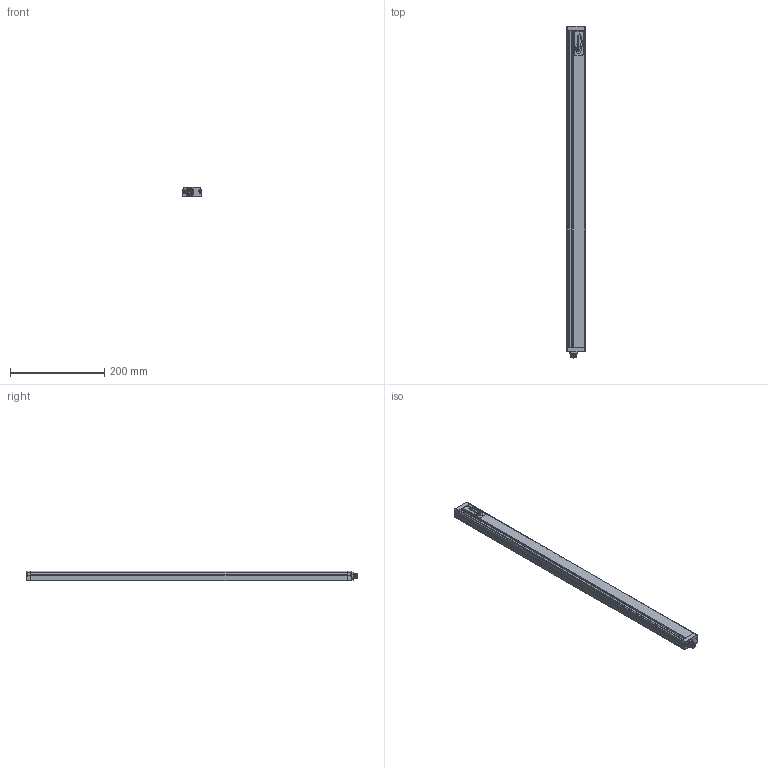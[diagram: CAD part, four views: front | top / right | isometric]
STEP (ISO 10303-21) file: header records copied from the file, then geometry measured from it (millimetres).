
FILE_DESCRIPTION(/* description */ (''),/* implementation_level */ '2;1');
FILE_NAME(/* name */ 'C:\Users\andre\SynologyDrive\Optoscan\Libreria Componenti\00 - Barriere\Polaris sorgente\Polaris_670_TX.stp',/* time_stamp */ '2021-06-04T10:57:03+02:00',/* author */ ('andre'),/* organization */ (''),/* preprocessor_version */ 'ST-DEVELOPER v18',/* originating_system */ 'Autodesk Inventor 2020',/* authorisation */ '');
FILE_SCHEMA (('AUTOMOTIVE_DESIGN { 1 0 10303 214 3 1 1 }'));
Length unit declared in the file: millimetre
Products named in the file (1): Polaris_670_TX
Bounding box: 40.5 x 704.8 x 20.75 mm (x, y, z)
Volume: 142029.4 mm3; surface area: 184089.4 mm2
Topology: 1 solids, 1 shells, 743 faces, 2072 edges, 1332 vertices
Faces by surface type: plane 332, cylinder 208, bspline 115, torus 74, cone 8, sphere 6
Full cylindrical faces by diameter (mm): 1 x8, 2.459 x4, 2.5 x4, 3 x4, 3.5 x4, 5.5 x4, 8 x1, 10.5 x2, 11.75 x9, 12 x1, 12.3 x3, 14.5 x1, 16.7 x1, 17.5 x1
Entity records: 30714 total; most frequent: CARTESIAN_POINT 11308, ORIENTED_EDGE 4130, DIRECTION 3590, EDGE_CURVE 2065, VERTEX_POINT 1333, AXIS2_PLACEMENT_3D 1263, LINE 1064, VECTOR 1064
